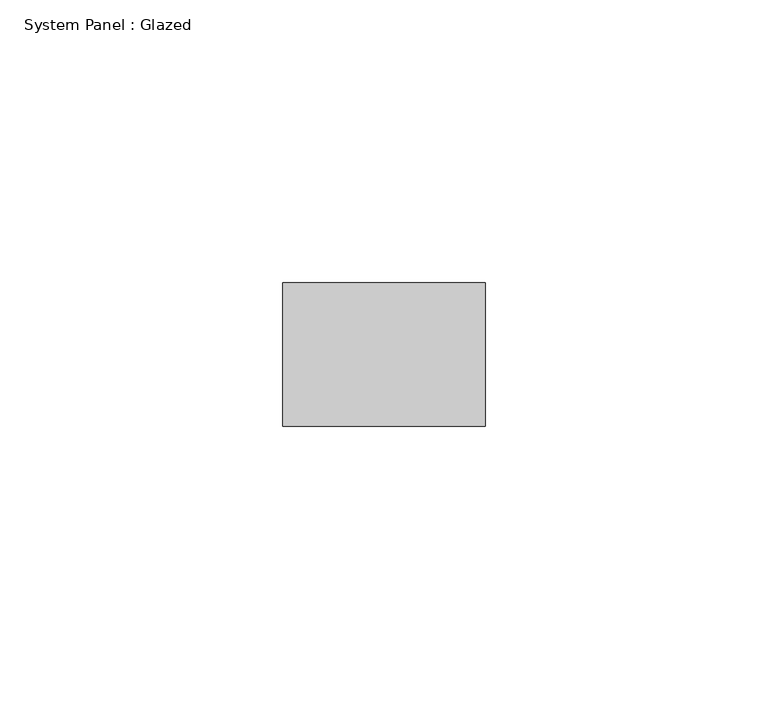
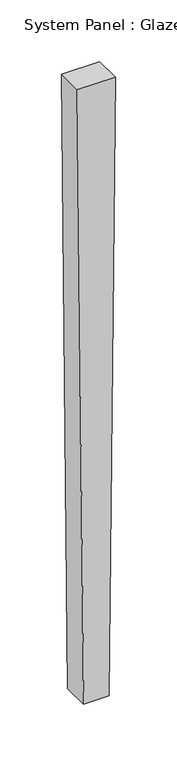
"""IFC4 building model written with IfcOpenShell, lengths in millimetres: plate geometry, System Panel : Glazed."""

from ifc_helpers import new_model, si_unit, frame, origin, place, context, project, spatial, polyline, outline, extrude, source, transform, mapped, element, save


def system_panel_glazed_939abe30(model_context):
    return source(origin(), model_context, "Body", "SweptSolid", [
        extrude(outline(polyline([(0.0, -12.0293146), (0.0, 12.0293146), (609.5717939, 17.8934544), (609.5717939, -17.8934544), (0.0, -12.0293146)])), frame((0.0, -44.45, 0.0), z_axis=(0.0, 1.0, 0.0), x_axis=(0.0, 0.0, 1.0)), (0.0, 0.0, 1.0), 25.4),
    ])


if __name__ == "__main__":
    model = new_model("IFC4")
    model_context = context("Model", 3, world=origin())
    ifc_project = project(units=[si_unit("LENGTHUNIT", "METRE", prefix="MILLI")], contexts=[model_context])
    site = spatial("IfcSite", under=ifc_project)
    building = spatial("IfcBuilding", under=site)
    placement = place(None, origin())
    system_panel_glazed_shape = system_panel_glazed_939abe30(model_context)
    element("IfcPlate", 1, ObjectType="System Panel : Glazed", at=placement, inside=building, context=model_context, shape_type="MappedRepresentation", body=[
        mapped(system_panel_glazed_shape, transform((0.0, 0.0, 0.0), x_axis=(1.0, 0.0, 0.0), y_axis=(0.0, 1.0, 0.0), z_axis=(0.0, 0.0, 1.0))),
    ])
    save(model, "model.ifc")
